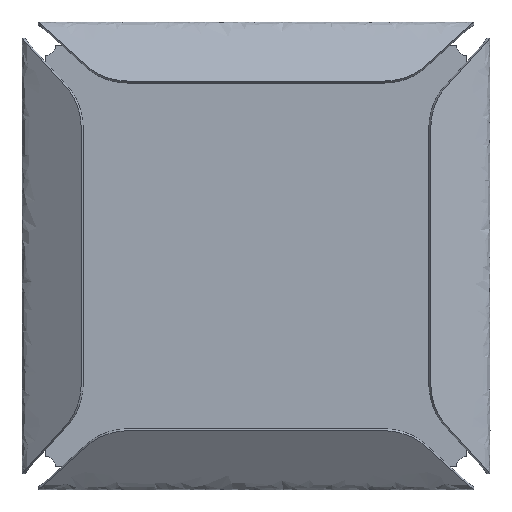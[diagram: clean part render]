
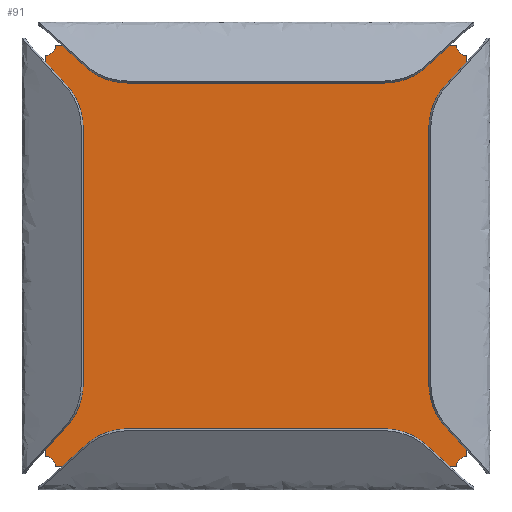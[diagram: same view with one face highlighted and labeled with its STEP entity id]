
A CAD part, top view. The second image highlights one B-rep face of the part: STEP entity #91.
In plain terms, the highlighted planar face has unit normal (0, 0, 1).
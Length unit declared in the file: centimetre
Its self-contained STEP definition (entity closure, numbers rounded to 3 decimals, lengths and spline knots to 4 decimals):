
#91=ADVANCED_FACE($,(#193),#1401,.T.);
#193=FACE_OUTER_BOUND($,#295,.T.);
#295=EDGE_LOOP($,(#420,#421,#422,#423,#424,#425,#426,#427,#428,#429,#430,
#431,#432,#433,#434,#435));
#420=ORIENTED_EDGE($,*,*,#963,.F.);
#421=ORIENTED_EDGE($,*,*,#933,.F.);
#422=ORIENTED_EDGE($,*,*,#949,.F.);
#423=ORIENTED_EDGE($,*,*,#941,.F.);
#424=ORIENTED_EDGE($,*,*,#957,.F.);
#425=ORIENTED_EDGE($,*,*,#942,.F.);
#426=ORIENTED_EDGE($,*,*,#958,.F.);
#427=ORIENTED_EDGE($,*,*,#943,.F.);
#428=ORIENTED_EDGE($,*,*,#959,.F.);
#429=ORIENTED_EDGE($,*,*,#944,.F.);
#430=ORIENTED_EDGE($,*,*,#960,.F.);
#431=ORIENTED_EDGE($,*,*,#945,.F.);
#432=ORIENTED_EDGE($,*,*,#961,.F.);
#433=ORIENTED_EDGE($,*,*,#946,.F.);
#434=ORIENTED_EDGE($,*,*,#962,.F.);
#435=ORIENTED_EDGE($,*,*,#947,.F.);
#933=EDGE_CURVE($,#1199,#1198,#1627,.T.);
#941=EDGE_CURVE($,#1215,#1214,#1422,.T.);
#942=EDGE_CURVE($,#1217,#1216,#1631,.T.);
#943=EDGE_CURVE($,#1219,#1218,#1423,.T.);
#944=EDGE_CURVE($,#1221,#1220,#1632,.T.);
#945=EDGE_CURVE($,#1223,#1222,#1424,.T.);
#946=EDGE_CURVE($,#1225,#1224,#1633,.T.);
#947=EDGE_CURVE($,#1227,#1226,#1425,.T.);
#949=EDGE_CURVE($,#1214,#1199,#1635,.T.);
#957=EDGE_CURVE($,#1216,#1215,#1643,.T.);
#958=EDGE_CURVE($,#1218,#1217,#1644,.T.);
#959=EDGE_CURVE($,#1220,#1219,#1645,.T.);
#960=EDGE_CURVE($,#1222,#1221,#1646,.T.);
#961=EDGE_CURVE($,#1224,#1223,#1647,.T.);
#962=EDGE_CURVE($,#1226,#1225,#1648,.T.);
#963=EDGE_CURVE($,#1198,#1227,#1649,.T.);
#1198=VERTEX_POINT($,#2092);
#1199=VERTEX_POINT($,#2093);
#1214=VERTEX_POINT($,#2108);
#1215=VERTEX_POINT($,#2109);
#1216=VERTEX_POINT($,#2110);
#1217=VERTEX_POINT($,#2111);
#1218=VERTEX_POINT($,#2112);
#1219=VERTEX_POINT($,#2113);
#1220=VERTEX_POINT($,#2114);
#1221=VERTEX_POINT($,#2115);
#1222=VERTEX_POINT($,#2116);
#1223=VERTEX_POINT($,#2117);
#1224=VERTEX_POINT($,#2118);
#1225=VERTEX_POINT($,#2119);
#1226=VERTEX_POINT($,#2120);
#1227=VERTEX_POINT($,#2121);
#1401=PLANE($,#1771);
#1422=B_SPLINE_CURVE_WITH_KNOTS($,1,(#1835,#1836),.UNSPECIFIED.,.F.,.F.,
(2,2),(300.4094,369.4295),.UNSPECIFIED.);
#1423=B_SPLINE_CURVE_WITH_KNOTS($,1,(#1840,#1841),.UNSPECIFIED.,.F.,.F.,
(2,2),(228.182,297.2021),.UNSPECIFIED.);
#1424=B_SPLINE_CURVE_WITH_KNOTS($,1,(#1845,#1846),.UNSPECIFIED.,.F.,.F.,
(2,2),(155.9546,224.9746),.UNSPECIFIED.);
#1425=B_SPLINE_CURVE_WITH_KNOTS($,1,(#1850,#1851),.UNSPECIFIED.,.F.,.F.,
(2,2),(83.7271,152.7472),.UNSPECIFIED.);
#1627=(
BOUNDED_CURVE()
B_SPLINE_CURVE(2,(#1815,#1816,#1817),.UNSPECIFIED.,.F.,.F.)
B_SPLINE_CURVE_WITH_KNOTS((3,3),(80.89,83.3569),.UNSPECIFIED.)
CURVE()
GEOMETRIC_REPRESENTATION_ITEM()
RATIONAL_B_SPLINE_CURVE((1.,0.774,1.))
REPRESENTATION_ITEM($)
);
#1631=(
BOUNDED_CURVE()
B_SPLINE_CURVE(2,(#1837,#1838,#1839),.UNSPECIFIED.,.F.,.F.)
B_SPLINE_CURVE_WITH_KNOTS((3,3),(297.5723,300.0392),.UNSPECIFIED.)
CURVE()
GEOMETRIC_REPRESENTATION_ITEM()
RATIONAL_B_SPLINE_CURVE((1.,0.774,1.))
REPRESENTATION_ITEM($)
);
#1632=(
BOUNDED_CURVE()
B_SPLINE_CURVE(2,(#1842,#1843,#1844),.UNSPECIFIED.,.F.,.F.)
B_SPLINE_CURVE_WITH_KNOTS((3,3),(225.3449,227.8117),.UNSPECIFIED.)
CURVE()
GEOMETRIC_REPRESENTATION_ITEM()
RATIONAL_B_SPLINE_CURVE((1.,0.774,1.))
REPRESENTATION_ITEM($)
);
#1633=(
BOUNDED_CURVE()
B_SPLINE_CURVE(2,(#1847,#1848,#1849),.UNSPECIFIED.,.F.,.F.)
B_SPLINE_CURVE_WITH_KNOTS((3,3),(153.1175,155.5843),.UNSPECIFIED.)
CURVE()
GEOMETRIC_REPRESENTATION_ITEM()
RATIONAL_B_SPLINE_CURVE((1.,0.774,1.))
REPRESENTATION_ITEM($)
);
#1635=(
BOUNDED_CURVE()
B_SPLINE_CURVE(2,(#1855,#1856,#1857),.UNSPECIFIED.,.F.,.F.)
B_SPLINE_CURVE_WITH_KNOTS((3,3),(-1.,0.),.UNSPECIFIED.)
CURVE()
GEOMETRIC_REPRESENTATION_ITEM()
RATIONAL_B_SPLINE_CURVE((1.,0.742,1.))
REPRESENTATION_ITEM($)
);
#1643=(
BOUNDED_CURVE()
B_SPLINE_CURVE(2,(#1879,#1880,#1881),.UNSPECIFIED.,.F.,.F.)
B_SPLINE_CURVE_WITH_KNOTS((3,3),(-1.,0.),.UNSPECIFIED.)
CURVE()
GEOMETRIC_REPRESENTATION_ITEM()
RATIONAL_B_SPLINE_CURVE((1.,0.742,1.))
REPRESENTATION_ITEM($)
);
#1644=(
BOUNDED_CURVE()
B_SPLINE_CURVE(2,(#1882,#1883,#1884),.UNSPECIFIED.,.F.,.F.)
B_SPLINE_CURVE_WITH_KNOTS((3,3),(-1.,0.),.UNSPECIFIED.)
CURVE()
GEOMETRIC_REPRESENTATION_ITEM()
RATIONAL_B_SPLINE_CURVE((1.,0.742,1.))
REPRESENTATION_ITEM($)
);
#1645=(
BOUNDED_CURVE()
B_SPLINE_CURVE(2,(#1885,#1886,#1887),.UNSPECIFIED.,.F.,.F.)
B_SPLINE_CURVE_WITH_KNOTS((3,3),(-1.,0.),.UNSPECIFIED.)
CURVE()
GEOMETRIC_REPRESENTATION_ITEM()
RATIONAL_B_SPLINE_CURVE((1.,0.742,1.))
REPRESENTATION_ITEM($)
);
#1646=(
BOUNDED_CURVE()
B_SPLINE_CURVE(2,(#1888,#1889,#1890),.UNSPECIFIED.,.F.,.F.)
B_SPLINE_CURVE_WITH_KNOTS((3,3),(-1.,0.),.UNSPECIFIED.)
CURVE()
GEOMETRIC_REPRESENTATION_ITEM()
RATIONAL_B_SPLINE_CURVE((1.,0.742,1.))
REPRESENTATION_ITEM($)
);
#1647=(
BOUNDED_CURVE()
B_SPLINE_CURVE(2,(#1891,#1892,#1893),.UNSPECIFIED.,.F.,.F.)
B_SPLINE_CURVE_WITH_KNOTS((3,3),(-1.,0.),.UNSPECIFIED.)
CURVE()
GEOMETRIC_REPRESENTATION_ITEM()
RATIONAL_B_SPLINE_CURVE((1.,0.742,1.))
REPRESENTATION_ITEM($)
);
#1648=(
BOUNDED_CURVE()
B_SPLINE_CURVE(2,(#1894,#1895,#1896),.UNSPECIFIED.,.F.,.F.)
B_SPLINE_CURVE_WITH_KNOTS((3,3),(-1.,0.),.UNSPECIFIED.)
CURVE()
GEOMETRIC_REPRESENTATION_ITEM()
RATIONAL_B_SPLINE_CURVE((1.,0.742,1.))
REPRESENTATION_ITEM($)
);
#1649=(
BOUNDED_CURVE()
B_SPLINE_CURVE(2,(#1897,#1898,#1899),.UNSPECIFIED.,.F.,.F.)
B_SPLINE_CURVE_WITH_KNOTS((3,3),(-1.,0.),.UNSPECIFIED.)
CURVE()
GEOMETRIC_REPRESENTATION_ITEM()
RATIONAL_B_SPLINE_CURVE((1.,0.742,1.))
REPRESENTATION_ITEM($)
);
#1771=AXIS2_PLACEMENT_3D($,#1965,#1792,$);
#1792=DIRECTION($,(0.,0.,1.));
#1815=CARTESIAN_POINT($,(71.209,70.6141,3.1));
#1816=CARTESIAN_POINT($,(71.3561,69.1502,3.1));
#1817=CARTESIAN_POINT($,(72.82,69.0031,3.1));
#1835=CARTESIAN_POINT($,(1.99,70.7941,3.1));
#1836=CARTESIAN_POINT($,(71.01,70.7941,3.1));
#1837=CARTESIAN_POINT($,(0.18,69.0031,3.1));
#1838=CARTESIAN_POINT($,(1.6439,69.1502,3.1));
#1839=CARTESIAN_POINT($,(1.791,70.6141,3.1));
#1840=CARTESIAN_POINT($,(0.,-0.2159,3.1));
#1841=CARTESIAN_POINT($,(0.,68.8041,3.1));
#1842=CARTESIAN_POINT($,(1.791,-2.0259,3.1));
#1843=CARTESIAN_POINT($,(1.6439,-0.5621,3.1));
#1844=CARTESIAN_POINT($,(0.18,-0.4149,3.1));
#1845=CARTESIAN_POINT($,(71.01,-2.2059,3.1));
#1846=CARTESIAN_POINT($,(1.99,-2.2059,3.1));
#1847=CARTESIAN_POINT($,(72.82,-0.4149,3.1));
#1848=CARTESIAN_POINT($,(71.3561,-0.5621,3.1));
#1849=CARTESIAN_POINT($,(71.209,-2.0259,3.1));
#1850=CARTESIAN_POINT($,(73.,68.8041,3.1));
#1851=CARTESIAN_POINT($,(73.,-0.2159,3.1));
#1855=CARTESIAN_POINT($,(71.01,70.7941,3.1));
#1856=CARTESIAN_POINT($,(71.1909,70.7941,3.1));
#1857=CARTESIAN_POINT($,(71.209,70.6141,3.1));
#1879=CARTESIAN_POINT($,(1.791,70.6141,3.1));
#1880=CARTESIAN_POINT($,(1.8091,70.7941,3.1));
#1881=CARTESIAN_POINT($,(1.99,70.7941,3.1));
#1882=CARTESIAN_POINT($,(0.,68.8041,3.1));
#1883=CARTESIAN_POINT($,(0.,68.985,3.1));
#1884=CARTESIAN_POINT($,(0.18,69.0031,3.1));
#1885=CARTESIAN_POINT($,(0.18,-0.4149,3.1));
#1886=CARTESIAN_POINT($,(0.,-0.3969,3.1));
#1887=CARTESIAN_POINT($,(0.,-0.2159,3.1));
#1888=CARTESIAN_POINT($,(1.99,-2.2059,3.1));
#1889=CARTESIAN_POINT($,(1.8091,-2.2059,3.1));
#1890=CARTESIAN_POINT($,(1.791,-2.0259,3.1));
#1891=CARTESIAN_POINT($,(71.209,-2.0259,3.1));
#1892=CARTESIAN_POINT($,(71.1909,-2.2059,3.1));
#1893=CARTESIAN_POINT($,(71.01,-2.2059,3.1));
#1894=CARTESIAN_POINT($,(73.,-0.2159,3.1));
#1895=CARTESIAN_POINT($,(73.,-0.3969,3.1));
#1896=CARTESIAN_POINT($,(72.82,-0.4149,3.1));
#1897=CARTESIAN_POINT($,(72.82,69.0031,3.1));
#1898=CARTESIAN_POINT($,(73.,68.985,3.1));
#1899=CARTESIAN_POINT($,(73.,68.8041,3.1));
#1965=CARTESIAN_POINT($,(0.,70.7941,3.1));
#2092=CARTESIAN_POINT($,(72.82,69.0031,3.1));
#2093=CARTESIAN_POINT($,(71.209,70.6141,3.1));
#2108=CARTESIAN_POINT($,(71.01,70.7941,3.1));
#2109=CARTESIAN_POINT($,(1.99,70.7941,3.1));
#2110=CARTESIAN_POINT($,(1.791,70.6141,3.1));
#2111=CARTESIAN_POINT($,(0.18,69.0031,3.1));
#2112=CARTESIAN_POINT($,(0.,68.8041,3.1));
#2113=CARTESIAN_POINT($,(0.,-0.2159,3.1));
#2114=CARTESIAN_POINT($,(0.18,-0.4149,3.1));
#2115=CARTESIAN_POINT($,(1.791,-2.0259,3.1));
#2116=CARTESIAN_POINT($,(1.99,-2.2059,3.1));
#2117=CARTESIAN_POINT($,(71.01,-2.2059,3.1));
#2118=CARTESIAN_POINT($,(71.209,-2.0259,3.1));
#2119=CARTESIAN_POINT($,(72.82,-0.4149,3.1));
#2120=CARTESIAN_POINT($,(73.,-0.2159,3.1));
#2121=CARTESIAN_POINT($,(73.,68.8041,3.1));
